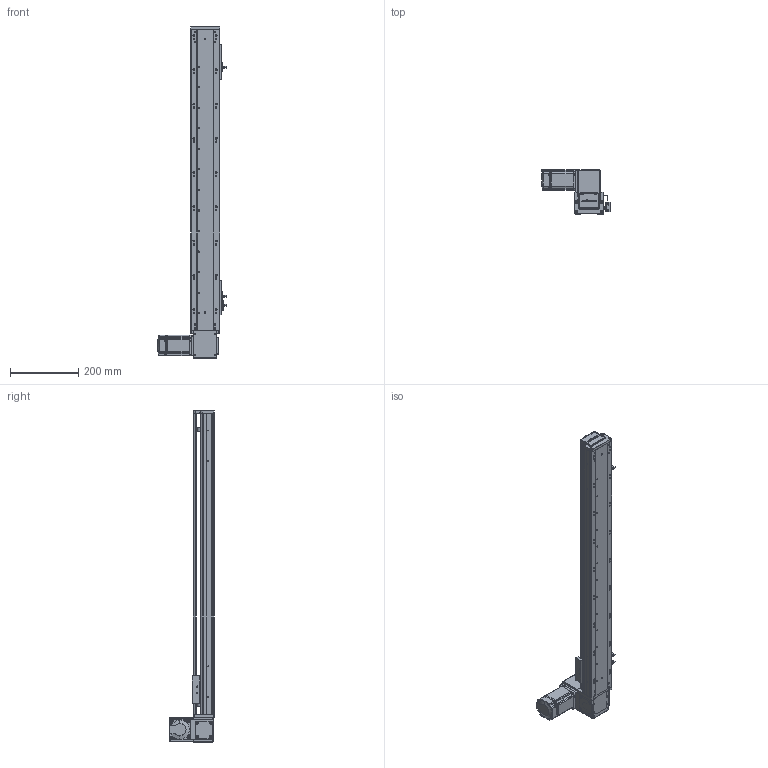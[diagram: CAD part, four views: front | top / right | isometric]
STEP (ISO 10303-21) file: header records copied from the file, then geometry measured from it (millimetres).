
FILE_DESCRIPTION (( 'STEP AP203' ), '1' );
FILE_NAME ('RY80-T-300-UL.SLDASM_700.step', '2021-03-01T02:16:47', ( '盈信电脑' ), ( '东莞市道滘镇水果街19号' ), 'SwSTEP 2.0', 'SolidWorks 2012', '' );
FILE_SCHEMA (( 'CONFIG_CONTROL_DESIGN' ));
Products named in the file (19): RY80-T-上下折同步轮盖板; RY80-T-300-UL.SLDASM_700; RY80-T-M4蹟翐2; RY80-T翋肮祭謫裔啣; 1; RY80-T肮祭謫奻殏俋欶; RY80-T粣創揤踡輸; RY80-T肮祭湍揤輸2; RY80-T萇儂假蚾啣; 滅袉蝶18-10; RY80俋离覜茼え; RY80-T-翋肮祭謫釱; RY80-T肮祭湍揤輸1; 覜茼ん672; RY80-T-300-UL倰第奻裔啣_700; RY80-T綴裔啣; 672嫖萇羲壽假蚾釱; RY80-T-300-UL倰第菁釱_700; RY80-T肮祭謫臏賑輸
Assembly tree (24 placements, depth 2):
  RY80-T-300-UL.SLDASM_700
    RY80-T-300-UL倰第菁釱_700
    RY80-T肮祭謫臏賑輸
    RY80-T-300-UL倰第奻裔啣_700
    RY80-T綴裔啣
    672嫖萇羲壽假蚾釱  x2
    覜茼ん672  x3
    RY80俋离覜茼え
    RY80-T-翋肮祭謫釱
    RY80-T肮祭湍揤輸1
    RY80-T肮祭湍揤輸2
    RY80-T萇儂假蚾啣
    RY80-T粣創揤踡輸  x2
    滅袉蝶18-10  x2
    RY80-T翋肮祭謫裔啣
    1
    RY80-T肮祭謫奻殏俋欶
    RY80-T-M4蹟翐2  x2
    RY80-T-上下折同步轮盖板
Bounding box: 198.7 x 130.5 x 970 mm (x, y, z)
Volume: 1801500 mm3; surface area: 744054.4 mm2
Topology: 24 solids, 24 shells, 2572 faces, 7093 edges, 4607 vertices
Faces by surface type: plane 1364, cylinder 1002, cone 150, bspline 56
Entity records: 81033 total; most frequent: CARTESIAN_POINT 20102, ORIENTED_EDGE 12570, DIRECTION 11722, EDGE_CURVE 6285, VERTEX_POINT 4128, AXIS2_PLACEMENT_3D 3952, LINE 3818, VECTOR 3818
